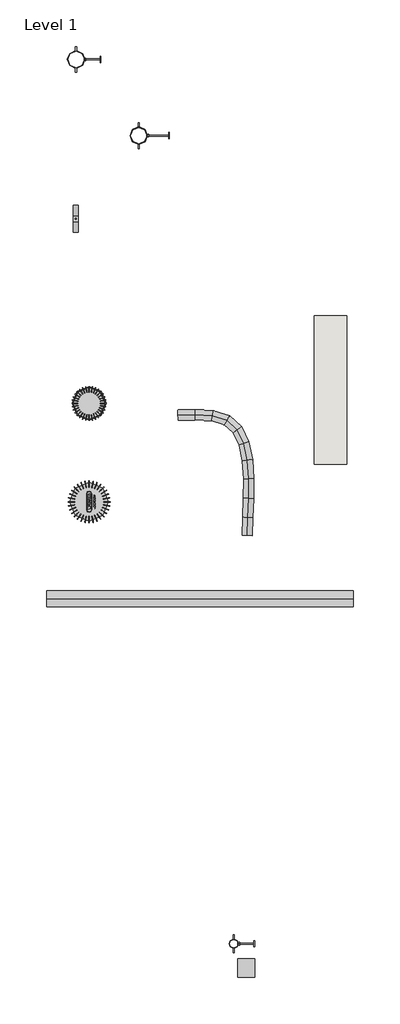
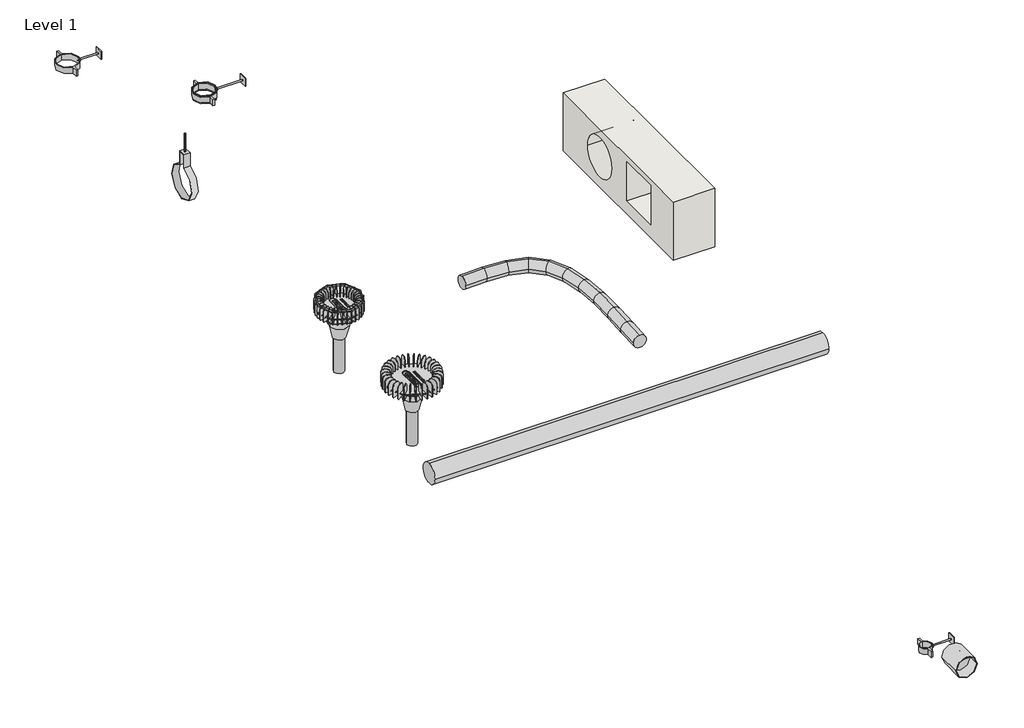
# One storey, incomplete: 11 pipe fittings, 2 pipe segments, 2 sanitary terminals, 1 wall.
"""IFC4 building model written with IfcOpenShell, lengths in millimetres."""

from ifc_helpers import new_model, si_unit, point, frame, frame_2d, origin, place, context, project, spatial, polyline, circle_curve, ellipse_curve, trimmed, segment, composite_curve, outline, extrude, transform, mapped, element, save
from ifc_brep_helpers import plane_surface, cylinder_surface, advanced_brep
from components import pipe_fitting_100mm_ce98358c, pipe_fitting_100mm_1dd35341, pipe_fitting_160mm_f1266ca1, pipe_fitting_50mm_364481d4, var_6497f26d, var_11255891, var_595acd19, var_2b31af74, var_5ac05391, var_ffde15c7, var_4e62a48e, var_c5092817, var_5cb2a67e

model = new_model("IFC4")

# Units and contexts
model_context = context("Model", 3, world=origin())
ifc_project = project(units=[si_unit("LENGTHUNIT", "METRE", prefix="MILLI")], contexts=[model_context])

# Site, building, storey
site = spatial("IfcSite", under=ifc_project)
building = spatial("IfcBuilding", under=site)
storey = spatial("IfcBuildingStorey", under=building, Name="Level 1", Elevation=0.0)

# Pipe fittings
placement = place(None, origin())
pipe_fitting_100mm_shape = pipe_fitting_100mm_ce98358c(model_context)
element("IfcPipeFitting", 1, ObjectType="AmancoWavin_AccesóriosdoTubo_QSSuporteDeslizanteVertical : 100mm", at=placement, inside=storey, context=model_context, shape_type="MappedRepresentation", body=[
    mapped(pipe_fitting_100mm_shape, transform((20766.5592902, 19224.3807505, 0.0), x_axis=(0.0, 1.0, 0.0), y_axis=(-1.0, 0.0, 0.0), z_axis=(0.0, 0.0, 1.0))),
])
pipe_fitting_100mm_2_shape = pipe_fitting_100mm_1dd35341(model_context)
element("IfcPipeFitting", 2, ObjectType="AmancoWavin_AccesóriosdoTubo_QSSuporteFixoVertical : 100mm", at=placement, inside=storey, context=model_context, shape_type="MappedRepresentation", body=[
    mapped(pipe_fitting_100mm_2_shape, transform((21154.6897055, 18752.4631452, 0.0), x_axis=(0.0, 1.0, 0.0), y_axis=(-1.0, 0.0, 0.0), z_axis=(0.0, 0.0, 1.0))),
])
pipe_fitting_160mm_shape = pipe_fitting_160mm_f1266ca1(model_context)
element("IfcPipeFitting", 3, ObjectType="AmancoWavin_AccesóriosdoTubo_QSSuporteDeslizanteH : 160mm", at=placement, inside=storey, context=model_context, shape_type="MappedRepresentation", body=[
    mapped(pipe_fitting_160mm_shape, transform((20763.8543296, 18236.5962411, 0.0), x_axis=(0.0, 1.0, 0.0), y_axis=(-1.0, 0.0, 0.0), z_axis=(0.0, 0.0, 1.0))),
])
pipe_fitting_50mm_shape = pipe_fitting_50mm_364481d4(model_context)
element("IfcPipeFitting", 4, ObjectType="AmancoWavin_AccesóriosdoTubo_QSSuporteDeslizanteVertical : 50mm", at=placement, inside=storey, context=model_context, shape_type="MappedRepresentation", body=[
    mapped(pipe_fitting_50mm_shape, transform((21743.0257841, 13744.504114, 0.0), x_axis=(0.0, 1.0, 0.0), y_axis=(-1.0, 0.0, 0.0), z_axis=(0.0, 0.0, 1.0))),
])
var_shape = var_6497f26d(model_context)
element("IfcPipeFitting", 5, ObjectType="AmancoWavin_ConexõesdeTubos_QSZNãoUsarFunilConector : Var.", at=placement, inside=storey, context=model_context, shape_type="MappedRepresentation", body=[
    mapped(var_shape, transform((20846.6986878, 17092.6413558, -61.0), x_axis=(0.0, 0.0, -1.0), y_axis=(1.0, 0.0, 0.0), z_axis=(0.0, -1.0, 0.0))),
])
element("IfcPipeFitting", 6, ObjectType="AmancoWavin_ConexõesdeTubos_QSZNãoUsarFunilConector : Var.", at=placement, inside=storey, context=model_context, shape_type="MappedRepresentation", body=[
    mapped(var_shape, transform((20846.6986878, 16482.6413558, -61.0), x_axis=(0.0, 0.0, -1.0), y_axis=(1.0, 0.0, 0.0), z_axis=(0.0, -1.0, 0.0))),
])
var_2_shape = var_11255891(model_context)
element("IfcPipeFitting", 7, ObjectType="AmancoWavin_ConexõesdeTubos_QSZNãoUsarBarra : Var.", at=placement, inside=storey, context=model_context, shape_type="MappedRepresentation", body=[
    mapped(var_2_shape, transform((20763.8543296, 18236.5962411, 142.0), x_axis=(0.0, 1.0, 0.0), y_axis=(-1.0, 0.0, 0.0), z_axis=(0.0, 0.0, 1.0))),
])
var_3_shape = var_595acd19(model_context)
element("IfcPipeFitting", 8, ObjectType="AmancoWavin_ConexõesdeTubos_QSZNãoUsarBarracomBase : Var.", at=placement, inside=storey, context=model_context, shape_type="MappedRepresentation", body=[
    mapped(var_3_shape, transform((20820.5592902, 19224.3807505, 0.0), x_axis=(0.0, 1.0, 0.0), y_axis=(0.0, 0.0, 1.0), z_axis=(1.0, 0.0, 0.0))),
])
element("IfcPipeFitting", 9, ObjectType="AmancoWavin_ConexõesdeTubos_QSZNãoUsarBarracomBase : Var.", at=placement, inside=storey, context=model_context, shape_type="MappedRepresentation", body=[
    mapped(var_3_shape, transform((21772.0257841, 13744.504114, 0.0), x_axis=(0.0, 1.0, 0.0), y_axis=(0.0, 0.0, 1.0), z_axis=(1.0, 0.0, 0.0))),
])
var_4_shape = var_2b31af74(model_context)
element("IfcPipeFitting", 10, ObjectType="AmancoWavin_ConexõesdeTubos_QSZNãoUsarBarracomBase : Var.", at=placement, inside=storey, context=model_context, shape_type="MappedRepresentation", body=[
    mapped(var_4_shape, transform((21208.6897055, 18752.4631452, 0.0), x_axis=(0.0, 1.0, 0.0), y_axis=(0.0, 0.0, 1.0), z_axis=(1.0, 0.0, 0.0))),
])
var_5_shape = var_5ac05391(model_context)
element("IfcPipeFitting", 11, ObjectType="AmancoWavin_ConexõesdeTubos_QSUnião : Var.", at=placement, inside=storey, context=model_context, shape_type="MappedRepresentation", body=[
    mapped(var_5_shape, transform((21821.3695998, 13593.7299639, 0.0), x_axis=(0.0, 1.0, 0.0), y_axis=(-1.0, 0.0, 0.0), z_axis=(0.0, 0.0, 1.0))),
])

# Pipe segments
element("IfcPipeSegment", 12, ObjectType="Amanco Wavin PVC QuickStream", at=placement, inside=storey, context=model_context, shape_type="SweptSolid", body=[
    extrude(outline(composite_curve([segment(trimmed(circle_curve(frame_2d((15883.1459459, 0.0)), 50.0), [point((15933.1459459, 0.0))], [point((15883.1459459, -50.0))], False, "CARTESIAN"), True, "CONTINUOUS"), segment(trimmed(circle_curve(frame_2d((15883.1459459, 0.0)), 50.0), [point((15883.1459459, -50.0))], [point((15833.1459459, 0.0))], False, "CARTESIAN"), True, "CONTINUOUS"), segment(trimmed(circle_curve(frame_2d((15883.1459459, 0.0)), 50.0), [point((15833.1459459, 0.0))], [point((15883.1459459, 50.0))], False, "CARTESIAN"), True, "CONTINUOUS"), segment(trimmed(circle_curve(frame_2d((15883.1459459, 0.0)), 50.0), [point((15883.1459459, 50.0))], [point((15933.1459459, 0.0))], False, "CARTESIAN"), True, "CONTINUOUS")], self_intersect=False)), frame((20583.1426094, 0.0, 0.0), z_axis=(1.0, 0.0, 0.0), x_axis=(0.0, 1.0, 0.0)), (0.0, 0.0, 1.0), 1900.0),
])
element("IfcPipeSegment", 13, ObjectType="QS Mangueira Flexível", at=placement, inside=storey, context=model_context, shape_type="AdvancedBrep", body=[
    advanced_brep(
    [(21794.6987128, 16276.6738609, 0.0), (21826.1779918, 16275.5314989, -31.5), (21857.6572708, 16274.3891369, 0.0), (21826.1779918, 16275.5314989, 31.5), (21798.6771296, 16386.3043403, 0.0), (21830.1533413, 16385.0774542, -31.5), (21861.629553, 16383.8505682, 0.0), (21830.1533413, 16385.0774542, 31.5), (21398.3450484, 16987.3519924, 0.0), (21397.4716223, 17018.839881, 31.5), (21396.5981962, 17050.3277695, 0.0), (21397.4716223, 17018.839881, -31.5), (21803.6067226, 16504.6118399, 0.0), (21835.1013923, 16503.8279339, -31.5), (21866.5960619, 16503.0440279, 0.0), (21835.1013923, 16503.8279339, 31.5), (21804.5750277, 16623.7644486, 0.0), (21836.0837635, 16624.71142, -31.5), (21867.5924992, 16625.6583914, 0.0), (21836.0837635, 16624.71142, 31.5), (21796.883946, 16736.3341477, 0.0), (21828.1620734, 16740.6563946, -31.5), (21859.4402008, 16744.9786414, 0.0), (21828.1620734, 16740.6563946, 31.5), (21776.3429321, 16834.4280713, 0.0), (21806.3979408, 16844.5913396, -31.5), (21836.4529496, 16854.7546079, 0.0), (21806.3979408, 16844.5913396, 31.5), (21740.0770393, 16910.3261479, 0.0), (21765.8529843, 16929.4447371, -31.5), (21791.6289294, 16948.5633264, 0.0), (21765.8529843, 16929.4447371, 31.5), (21685.564038, 16960.1195506, 0.0), (21701.5888226, 16988.1450693, -31.5), (21717.6136072, 17016.1705879, 0.0), (21701.5888226, 16988.1450693, 31.5), (21605.4480579, 16984.7847002, 0.0), (21611.0202432, 17016.0282401, -31.5), (21616.5924285, 17047.27178, 0.0), (21611.0202432, 17016.0282401, 31.5), (21504.223789, 16990.2889074, 0.0), (21504.6429455, 17021.8126503, -31.5), (21505.0621019, 17053.3363931, 0.0), (21504.6429455, 17021.8126503, 31.5)],
    [
        (0, 1, circle_curve(frame((21826.1779918, 16275.5314989, 0.0), z_axis=(-0.03626546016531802, -0.9993421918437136, 0.0), x_axis=(-0.9993421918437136, 0.03626546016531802, 0.0)), 31.5)),
        (1, 2, circle_curve(frame((21826.1779918, 16275.5314989, 0.0), z_axis=(-0.03626546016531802, -0.9993421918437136, 0.0), x_axis=(-0.9993421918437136, 0.03626546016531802, 0.0)), 31.5)),
        (2, 3, circle_curve(frame((21826.1779918, 16275.5314989, 0.0), z_axis=(-0.03626546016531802, -0.9993421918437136, 0.0), x_axis=(-0.9993421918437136, 0.03626546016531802, 0.0)), 31.5)),
        (3, 0, circle_curve(frame((21826.1779918, 16275.5314989, 0.0), z_axis=(-0.03626546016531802, -0.9993421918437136, 0.0), x_axis=(-0.9993421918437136, 0.03626546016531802, 0.0)), 31.5)),
        (0, 4),
        (4, 5, ellipse_curve(frame((21830.1533413, 16385.0774542, 0.0), z_axis=(-0.03894862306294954, -0.9992412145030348, 0.0), x_axis=(0.9992412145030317, -0.0389486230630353, 0.0)), 31.5001136, 31.5)),
        (5, 1),
        (5, 6, ellipse_curve(frame((21830.1533413, 16385.0774542, 0.0), z_axis=(-0.03894862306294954, -0.9992412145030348, 0.0), x_axis=(0.9992412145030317, -0.0389486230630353, 0.0)), 31.5001136, 31.5)),
        (6, 2),
        (6, 7, ellipse_curve(frame((21830.1533413, 16385.0774542, 0.0), z_axis=(-0.03894862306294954, -0.9992412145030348, 0.0), x_axis=(0.9992412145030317, -0.0389486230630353, 0.0)), 31.5001136, 31.5)),
        (7, 3),
        (7, 4, ellipse_curve(frame((21830.1533413, 16385.0774542, 0.0), z_axis=(-0.03894862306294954, -0.9992412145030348, 0.0), x_axis=(0.9992412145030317, -0.0389486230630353, 0.0)), 31.5001136, 31.5)),
        (8, 9, circle_curve(frame((21397.4716223, 17018.839881, 0.0), z_axis=(-0.9996155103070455, -0.02772781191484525, 0.0), x_axis=(0.02772781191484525, -0.9996155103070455, 0.0)), 31.5)),
        (9, 10, circle_curve(frame((21397.4716223, 17018.839881, 0.0), z_axis=(-0.9996155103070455, -0.02772781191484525, 0.0), x_axis=(0.02772781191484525, -0.9996155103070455, 0.0)), 31.5)),
        (10, 11, circle_curve(frame((21397.4716223, 17018.839881, 0.0), z_axis=(-0.9996155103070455, -0.02772781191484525, 0.0), x_axis=(0.02772781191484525, -0.9996155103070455, 0.0)), 31.5)),
        (11, 8, circle_curve(frame((21397.4716223, 17018.839881, 0.0), z_axis=(-0.9996155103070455, -0.02772781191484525, 0.0), x_axis=(0.02772781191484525, -0.9996155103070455, 0.0)), 31.5)),
        (4, 12),
        (12, 13, ellipse_curve(frame((21835.1013923, 16503.8279339, 0.0), z_axis=(-0.024882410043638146, -0.9996903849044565, 0.0), x_axis=(-0.9996903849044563, 0.024882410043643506, 0.0)), 31.5044239, 31.5)),
        (13, 5),
        (13, 14, ellipse_curve(frame((21835.1013923, 16503.8279339, 0.0), z_axis=(-0.024882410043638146, -0.9996903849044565, 0.0), x_axis=(-0.9996903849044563, 0.024882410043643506, 0.0)), 31.5044239, 31.5)),
        (14, 6),
        (14, 15, ellipse_curve(frame((21835.1013923, 16503.8279339, 0.0), z_axis=(-0.024882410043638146, -0.9996903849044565, 0.0), x_axis=(-0.9996903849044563, 0.024882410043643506, 0.0)), 31.5044239, 31.5)),
        (15, 7),
        (15, 12, ellipse_curve(frame((21835.1013923, 16503.8279339, 0.0), z_axis=(-0.024882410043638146, -0.9996903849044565, 0.0), x_axis=(-0.9996903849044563, 0.024882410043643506, 0.0)), 31.5044239, 31.5)),
        (12, 16),
        (16, 17, ellipse_curve(frame((21836.0837635, 16624.71142, 0.0), z_axis=(0.030040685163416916, -0.9995486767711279, 0.0), x_axis=(-0.9995486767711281, -0.030040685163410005, 0.0)), 31.5229628, 31.5)),
        (17, 13),
        (17, 18, ellipse_curve(frame((21836.0837635, 16624.71142, 0.0), z_axis=(0.030040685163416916, -0.9995486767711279, 0.0), x_axis=(-0.9995486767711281, -0.030040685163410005, 0.0)), 31.5229628, 31.5)),
        (18, 14),
        (18, 19, ellipse_curve(frame((21836.0837635, 16624.71142, 0.0), z_axis=(0.030040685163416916, -0.9995486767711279, 0.0), x_axis=(-0.9995486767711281, -0.030040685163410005, 0.0)), 31.5229628, 31.5)),
        (19, 15),
        (19, 16, ellipse_curve(frame((21836.0837635, 16624.71142, 0.0), z_axis=(0.030040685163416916, -0.9995486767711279, 0.0), x_axis=(-0.9995486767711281, -0.030040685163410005, 0.0)), 31.5229628, 31.5)),
        (16, 20),
        (20, 21, ellipse_curve(frame((21828.1620734, 16740.6563946, 0.0), z_axis=(0.13688671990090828, -0.9905867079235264, 0.0), x_axis=(-0.9905867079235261, -0.13688671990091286, 0.0)), 31.5753554, 31.5)),
        (21, 17),
        (21, 22, ellipse_curve(frame((21828.1620734, 16740.6563946, 0.0), z_axis=(0.13688671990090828, -0.9905867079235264, 0.0), x_axis=(-0.9905867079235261, -0.13688671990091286, 0.0)), 31.5753554, 31.5)),
        (22, 18),
        (22, 23, ellipse_curve(frame((21828.1620734, 16740.6563946, 0.0), z_axis=(0.13688671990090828, -0.9905867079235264, 0.0), x_axis=(-0.9905867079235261, -0.13688671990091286, 0.0)), 31.5753554, 31.5)),
        (23, 19),
        (23, 20, ellipse_curve(frame((21828.1620734, 16740.6563946, 0.0), z_axis=(0.13688671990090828, -0.9905867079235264, 0.0), x_axis=(-0.9905867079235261, -0.13688671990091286, 0.0)), 31.5753554, 31.5)),
        (20, 24),
        (24, 25, ellipse_curve(frame((21806.3979408, 16844.5913396, 0.0), z_axis=(0.3203360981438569, -0.9473039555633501, 0.0), x_axis=(-0.9473039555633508, -0.32033609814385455, 0.0)), 31.7268904, 31.5)),
        (25, 21),
        (25, 26, ellipse_curve(frame((21806.3979408, 16844.5913396, 0.0), z_axis=(0.3203360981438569, -0.9473039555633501, 0.0), x_axis=(-0.9473039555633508, -0.32033609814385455, 0.0)), 31.7268904, 31.5)),
        (26, 22),
        (26, 27, ellipse_curve(frame((21806.3979408, 16844.5913396, 0.0), z_axis=(0.3203360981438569, -0.9473039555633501, 0.0), x_axis=(-0.9473039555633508, -0.32033609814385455, 0.0)), 31.7268904, 31.5)),
        (27, 23),
        (27, 24, ellipse_curve(frame((21806.3979408, 16844.5913396, 0.0), z_axis=(0.3203360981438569, -0.9473039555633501, 0.0), x_axis=(-0.9473039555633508, -0.32033609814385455, 0.0)), 31.7268904, 31.5)),
        (24, 28),
        (28, 29, ellipse_curve(frame((21765.8529843, 16929.4447371, 0.0), z_axis=(0.5957364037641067, -0.8031800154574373, 0.0), x_axis=(-0.8031800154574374, -0.5957364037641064, 0.0)), 32.0923635, 31.5)),
        (29, 25),
        (29, 30, ellipse_curve(frame((21765.8529843, 16929.4447371, 0.0), z_axis=(0.5957364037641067, -0.8031800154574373, 0.0), x_axis=(-0.8031800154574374, -0.5957364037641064, 0.0)), 32.0923635, 31.5)),
        (30, 26),
        (30, 31, ellipse_curve(frame((21765.8529843, 16929.4447371, 0.0), z_axis=(0.5957364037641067, -0.8031800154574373, 0.0), x_axis=(-0.8031800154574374, -0.5957364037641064, 0.0)), 32.0923635, 31.5)),
        (31, 27),
        (31, 28, ellipse_curve(frame((21765.8529843, 16929.4447371, 0.0), z_axis=(0.5957364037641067, -0.8031800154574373, 0.0), x_axis=(-0.8031800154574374, -0.5957364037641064, 0.0)), 32.0923635, 31.5)),
        (28, 32),
        (32, 33, ellipse_curve(frame((21701.5888226, 16988.1450693, 0.0), z_axis=(0.8681069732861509, -0.4963771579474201, 0.0), x_axis=(-0.4963771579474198, -0.868106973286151, 0.0)), 32.2834852, 31.5)),
        (33, 29),
        (33, 34, ellipse_curve(frame((21701.5888226, 16988.1450693, 0.0), z_axis=(0.8681069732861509, -0.4963771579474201, 0.0), x_axis=(-0.4963771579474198, -0.868106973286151, 0.0)), 32.2834852, 31.5)),
        (34, 30),
        (34, 35, ellipse_curve(frame((21701.5888226, 16988.1450693, 0.0), z_axis=(0.8681069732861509, -0.4963771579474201, 0.0), x_axis=(-0.4963771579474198, -0.868106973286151, 0.0)), 32.2834852, 31.5)),
        (35, 31),
        (35, 32, ellipse_curve(frame((21701.5888226, 16988.1450693, 0.0), z_axis=(0.8681069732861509, -0.4963771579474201, 0.0), x_axis=(-0.4963771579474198, -0.868106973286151, 0.0)), 32.2834852, 31.5)),
        (32, 36),
        (36, 37, ellipse_curve(frame((21611.0202432, 17016.0282401, 0.0), z_axis=(0.9844658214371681, -0.17557632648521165, 0.0), x_axis=(-0.17557632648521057, -0.9844658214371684, 0.0)), 31.736541, 31.5)),
        (37, 33),
        (37, 38, ellipse_curve(frame((21611.0202432, 17016.0282401, 0.0), z_axis=(0.9844658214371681, -0.17557632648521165, 0.0), x_axis=(-0.17557632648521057, -0.9844658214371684, 0.0)), 31.736541, 31.5)),
        (38, 34),
        (38, 39, ellipse_curve(frame((21611.0202432, 17016.0282401, 0.0), z_axis=(0.9844658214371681, -0.17557632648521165, 0.0), x_axis=(-0.17557632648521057, -0.9844658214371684, 0.0)), 31.736541, 31.5)),
        (39, 35),
        (39, 36, ellipse_curve(frame((21611.0202432, 17016.0282401, 0.0), z_axis=(0.9844658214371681, -0.17557632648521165, 0.0), x_axis=(-0.17557632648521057, -0.9844658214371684, 0.0)), 31.736541, 31.5)),
        (36, 40),
        (40, 41, ellipse_curve(frame((21504.6429455, 17021.8126503, 0.0), z_axis=(0.9999116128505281, -0.013295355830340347, 0.0), x_axis=(-0.013295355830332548, -0.9999116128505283, 0.0)), 31.5265294, 31.5)),
        (41, 37),
        (41, 42, ellipse_curve(frame((21504.6429455, 17021.8126503, 0.0), z_axis=(0.9999116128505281, -0.013295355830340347, 0.0), x_axis=(-0.013295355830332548, -0.9999116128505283, 0.0)), 31.5265294, 31.5)),
        (42, 38),
        (42, 43, ellipse_curve(frame((21504.6429455, 17021.8126503, 0.0), z_axis=(0.9999116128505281, -0.013295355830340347, 0.0), x_axis=(-0.013295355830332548, -0.9999116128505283, 0.0)), 31.5265294, 31.5)),
        (43, 39),
        (43, 40, ellipse_curve(frame((21504.6429455, 17021.8126503, 0.0), z_axis=(0.9999116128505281, -0.013295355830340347, 0.0), x_axis=(-0.013295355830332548, -0.9999116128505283, 0.0)), 31.5265294, 31.5)),
        (40, 8),
        (11, 41),
        (10, 42),
        (9, 43),
    ],
    [
        plane_surface(frame((21826.1779918, 16275.5314989, 31.5), z_axis=(-0.03626546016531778, -0.9993421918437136, 0.0), x_axis=(0.9993421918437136, -0.03626546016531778, 0.0))),
        cylinder_surface(frame((21826.1779918, 16275.5314989, 0.0), z_axis=(-0.03626546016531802, -0.9993421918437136, 0.0), x_axis=(-0.9993421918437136, 0.03626546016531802, 0.0)), 31.5),
        plane_surface(frame((21397.4716223, 17018.839881, -31.5), z_axis=(-0.9996155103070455, -0.027727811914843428, 0.0), x_axis=(0.027727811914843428, -0.9996155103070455, 0.0))),
        cylinder_surface(frame((21830.1533413, 16385.0774542, 0.0), z_axis=(-0.041631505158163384, -0.9991330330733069, 0.0), x_axis=(-0.9991330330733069, 0.041631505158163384, 0.0)), 31.5),
        cylinder_surface(frame((21835.1013923, 16503.8279339, 0.0), z_axis=(-0.008126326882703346, -0.999966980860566, 0.0), x_axis=(-0.999966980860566, 0.008126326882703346, 0.0)), 31.5),
        cylinder_surface(frame((21836.0837635, 16624.71142, 0.0), z_axis=(0.06816393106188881, -0.9976741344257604, 0.0), x_axis=(-0.9976741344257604, -0.06816393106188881, 0.0)), 31.5),
        cylinder_surface(frame((21828.1620734, 16740.6563946, 0.0), z_axis=(0.20495614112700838, -0.9787711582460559, 0.0), x_axis=(-0.9787711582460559, -0.20495614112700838, 0.0)), 31.5),
        cylinder_surface(frame((21806.3979408, 16844.5913396, 0.0), z_axis=(0.4311343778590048, -0.9022877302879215, 0.0), x_axis=(-0.9022877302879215, -0.4311343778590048, 0.0)), 31.5),
        cylinder_surface(frame((21765.8529843, 16929.4447371, 0.0), z_axis=(0.738346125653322, -0.6744219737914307, 0.0), x_axis=(-0.6744219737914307, -0.738346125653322, 0.0)), 31.5),
        cylinder_surface(frame((21701.5888226, 16988.1450693, 0.0), z_axis=(0.9557317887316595, -0.2942392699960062, 0.0), x_axis=(-0.2942392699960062, -0.9557317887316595, 0.0)), 31.5),
        cylinder_surface(frame((21611.0202432, 17016.0282401, 0.0), z_axis=(0.9985248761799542, -0.05429614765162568, 0.0), x_axis=(-0.05429614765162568, -0.9985248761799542, 0.0)), 31.5),
        cylinder_surface(frame((21504.6429455, 17021.8126503, 0.0), z_axis=(0.9996155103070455, 0.02772781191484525, 0.0), x_axis=(0.02772781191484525, -0.9996155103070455, 0.0)), 31.5),
    ],
    [
        (0, [[1, 2, 3, 4]]),
        (1, [[-1, 5, 6, 7]]),
        (1, [[-2, -7, 8, 9]]),
        (1, [[-3, -9, 10, 11]]),
        (1, [[-4, -11, 12, -5]]),
        (2, [[13, 14, 15, 16]]),
        (3, [[-6, 17, 18, 19]]),
        (3, [[-8, -19, 20, 21]]),
        (3, [[-10, -21, 22, 23]]),
        (3, [[-12, -23, 24, -17]]),
        (4, [[-18, 25, 26, 27]]),
        (4, [[-20, -27, 28, 29]]),
        (4, [[-22, -29, 30, 31]]),
        (4, [[-24, -31, 32, -25]]),
        (5, [[-26, 33, 34, 35]]),
        (5, [[-28, -35, 36, 37]]),
        (5, [[-30, -37, 38, 39]]),
        (5, [[-32, -39, 40, -33]]),
        (6, [[-34, 41, 42, 43]]),
        (6, [[-36, -43, 44, 45]]),
        (6, [[-38, -45, 46, 47]]),
        (6, [[-40, -47, 48, -41]]),
        (7, [[-42, 49, 50, 51]]),
        (7, [[-44, -51, 52, 53]]),
        (7, [[-46, -53, 54, 55]]),
        (7, [[-48, -55, 56, -49]]),
        (8, [[-50, 57, 58, 59]]),
        (8, [[-52, -59, 60, 61]]),
        (8, [[-54, -61, 62, 63]]),
        (8, [[-56, -63, 64, -57]]),
        (9, [[-58, 65, 66, 67]]),
        (9, [[-60, -67, 68, 69]]),
        (9, [[-62, -69, 70, 71]]),
        (9, [[-64, -71, 72, -65]]),
        (10, [[-66, 73, 74, 75]]),
        (10, [[-68, -75, 76, 77]]),
        (10, [[-70, -77, 78, 79]]),
        (10, [[-72, -79, 80, -73]]),
        (11, [[-74, 81, -16, 82]]),
        (11, [[-76, -82, -15, 83]]),
        (11, [[-78, -83, -14, 84]]),
        (11, [[-80, -84, -13, -81]]),
    ],
),
])

# Sanitary terminals
var_6_shape = var_ffde15c7(model_context)
var_7_shape = var_4e62a48e(model_context)
element("IfcSanitaryTerminal", 14, ObjectType="AmancoWavin_AquipamentosHidráulicos_QSBocaldeCaptação : Var.", at=placement, inside=storey, context=model_context, shape_type="MappedRepresentation", body=[
    mapped(var_6_shape, transform((20846.6986878, 17092.6413558, 0.0), x_axis=(0.0, 1.0, 0.0), y_axis=(-1.0, 0.0, 0.0), z_axis=(0.0, 0.0, 1.0))),
    mapped(var_7_shape, transform((20846.6986878, 17092.6413558, 0.0), x_axis=(0.0, 1.0, 0.0), y_axis=(-1.0, 0.0, 0.0), z_axis=(0.0, 0.0, 1.0))),
])
var_8_shape = var_c5092817(model_context)
var_9_shape = var_5cb2a67e(model_context)
element("IfcSanitaryTerminal", 15, ObjectType="AmancoWavin_AquipamentosHidráulicos_QSBocaldeCaptação : Var.", at=placement, inside=storey, context=model_context, shape_type="MappedRepresentation", body=[
    mapped(var_8_shape, transform((20846.6986878, 16482.6413558, 0.0), x_axis=(0.0, 1.0, 0.0), y_axis=(-1.0, 0.0, 0.0), z_axis=(0.0, 0.0, 1.0))),
    mapped(var_9_shape, transform((20846.6986878, 16482.6413558, 0.0), x_axis=(0.0, 1.0, 0.0), y_axis=(-1.0, 0.0, 0.0), z_axis=(0.0, 0.0, 1.0))),
])

# Wall
element("IfcWall", 16, ObjectType="Wall 1", at=placement, inside=storey, context=model_context, shape_type="SweptSolid", body=[
    extrude(outline(polyline([(17636.2777265, 0.0), (16716.2777265, 0.0), (16716.2777265, 296.5968372), (17636.2777265, 296.5968372), (17636.2777265, 0.0)]), holes=[composite_curve([segment(trimmed(circle_curve(frame_2d((17331.2777265, 154.4282969)), 100.0), [point((17231.2777265, 154.4282969))], [point((17431.2777265, 154.4282969))], True, "CARTESIAN"), True, "CONTINUOUS"), segment(trimmed(circle_curve(frame_2d((17331.2777265, 154.4282969)), 100.0), [point((17431.2777265, 154.4282969))], [point((17231.2777265, 154.4282969))], True, "CARTESIAN"), True, "CONTINUOUS")], self_intersect=False), polyline([(16906.2777265, 66.4896004), (17106.2777265, 66.4896004), (17106.2777265, 266.4896004), (16906.2777265, 266.4896004), (16906.2777265, 66.4896004)])]), frame((22242.3358198, 0.0, 0.0), z_axis=(1.0, 0.0, 0.0), x_axis=(0.0, 1.0, 0.0)), (0.0, 0.0, 1.0), 200.0),
])

save(model, "model.ifc")
